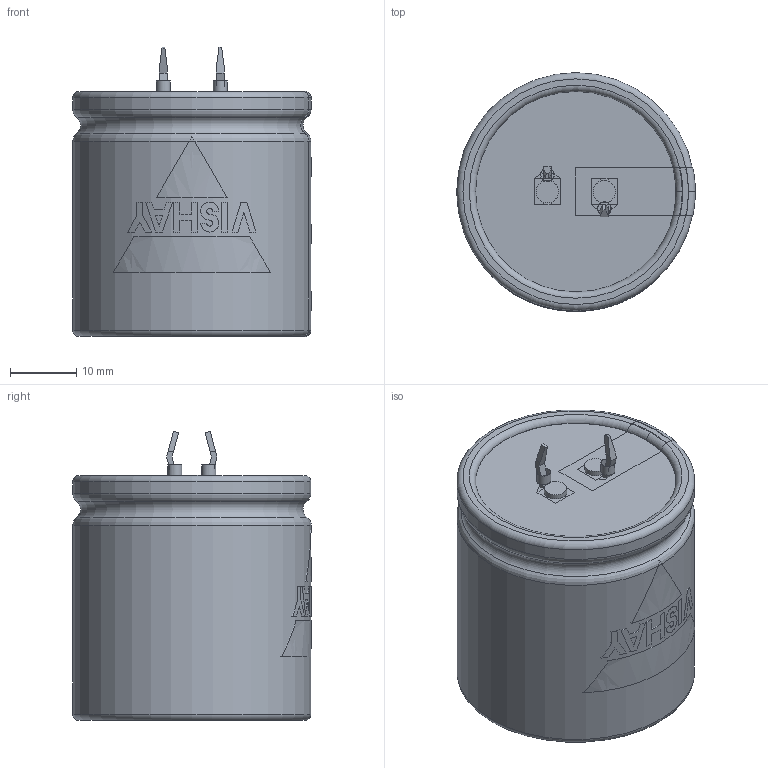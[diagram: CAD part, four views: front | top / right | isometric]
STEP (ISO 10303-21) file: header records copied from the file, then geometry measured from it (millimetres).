
FILE_DESCRIPTION(('FreeCAD Model'),'2;1');
FILE_NAME( 'C:/Users/Gebruiker/Documents/FreeCAD/SnapIn_35x35_2pin_5.8.step', '2020-11-12T20:37:30',('Author'),(''), 'Open CASCADE STEP processor 6.8','FreeCAD','Unknown');
FILE_SCHEMA(('AUTOMOTIVE_DESIGN_CC2 { 1 2 10303 214 -1 1 5 4 }'));
Length unit declared in the file: millimetre
Products named in the file (9): ASSEMBLY; TerminalMin; TerminalPlus; PCBHoles; Disc; BottomInsulation; Can3D; InkMinusBar; InkLogo
Assembly tree (8 placements, depth 2):
  ASSEMBLY
    TerminalMin
    TerminalPlus
    PCBHoles
    Disc
    BottomInsulation
    Can3D
    InkMinusBar
    InkLogo
Bounding box: 36.05 x 36.05 x 43.75 mm (x, y, z)
Volume: 43469.4 mm3; surface area: 16080.5 mm2
Topology: 16 solids, 16 shells, 190 faces, 461 edges, 302 vertices
Faces by surface type: plane 142, cylinder 29, torus 19
Full cylindrical faces by diameter (mm): 2 x2, 2.1 x2, 3.4 x2, 28.8 x2, 30.3 x1, 36 x2
Entity records: 20603 total; most frequent: CARTESIAN_POINT 10252, DIRECTION 1608, ORIENTED_EDGE 922, PCURVE 922, DEFINITIONAL_REPRESENTATION 922, LINE 885, VECTOR 885, EDGE_CURVE 461
